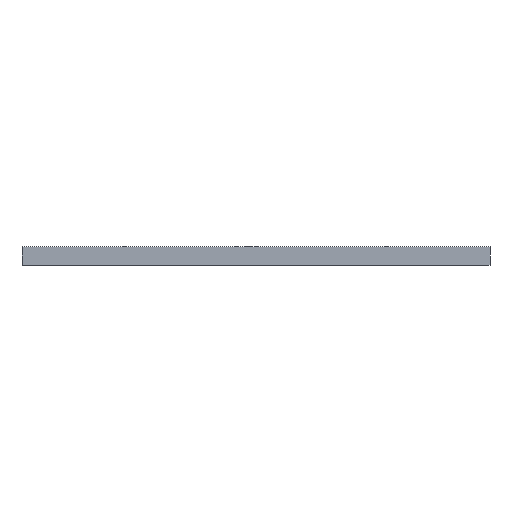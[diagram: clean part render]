
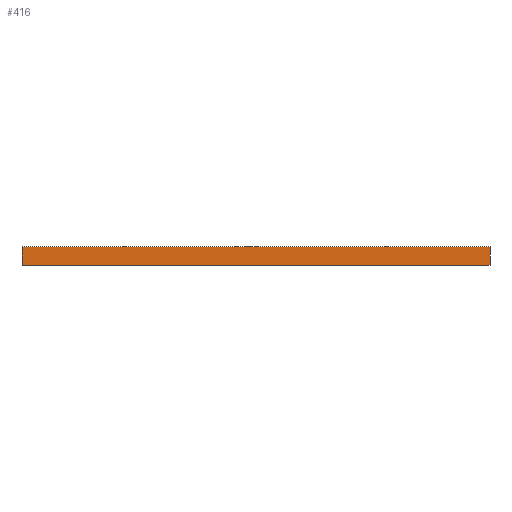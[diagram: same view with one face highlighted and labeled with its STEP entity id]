
A CAD part, front view. The second image highlights one B-rep face of the part: STEP entity #416.
In plain terms, the highlighted planar face has unit normal (0, -1, 0).
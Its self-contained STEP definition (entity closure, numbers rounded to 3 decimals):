
#21 = EDGE_CURVE('',#22,#24,#26,.T.);
#22 = VERTEX_POINT('',#23);
#23 = CARTESIAN_POINT('',(0.,0.,18.));
#24 = VERTEX_POINT('',#25);
#25 = CARTESIAN_POINT('',(464.,0.,18.));
#26 = SURFACE_CURVE('',#27,(#31,#43),.PCURVE_S1.);
#27 = LINE('',#28,#29);
#28 = CARTESIAN_POINT('',(0.,0.,18.));
#29 = VECTOR('',#30,1.);
#30 = DIRECTION('',(1.,0.,0.));
#31 = PCURVE('',#32,#37);
#32 = PLANE('',#33);
#33 = AXIS2_PLACEMENT_3D('',#34,#35,#36);
#34 = CARTESIAN_POINT('',(0.,0.,18.));
#35 = DIRECTION('',(0.,0.,-1.));
#36 = DIRECTION('',(1.,0.,0.));
#37 = DEFINITIONAL_REPRESENTATION('',(#38),#42);
#38 = LINE('',#39,#40);
#39 = CARTESIAN_POINT('',(0.,0.));
#40 = VECTOR('',#41,1.);
#41 = DIRECTION('',(1.,0.));
#42 = ( GEOMETRIC_REPRESENTATION_CONTEXT(2) 
PARAMETRIC_REPRESENTATION_CONTEXT() REPRESENTATION_CONTEXT('2D SPACE',''
  ) );
#43 = PCURVE('',#44,#49);
#44 = PLANE('',#45);
#45 = AXIS2_PLACEMENT_3D('',#46,#47,#48);
#46 = CARTESIAN_POINT('',(0.,0.,18.));
#47 = DIRECTION('',(0.,1.,0.));
#48 = DIRECTION('',(1.,0.,0.));
#49 = DEFINITIONAL_REPRESENTATION('',(#50),#54);
#50 = LINE('',#51,#52);
#51 = CARTESIAN_POINT('',(0.,0.));
#52 = VECTOR('',#53,1.);
#53 = DIRECTION('',(1.,0.));
#54 = ( GEOMETRIC_REPRESENTATION_CONTEXT(2) 
PARAMETRIC_REPRESENTATION_CONTEXT() REPRESENTATION_CONTEXT('2D SPACE',''
  ) );
#72 = PLANE('',#73);
#73 = AXIS2_PLACEMENT_3D('',#74,#75,#76);
#74 = CARTESIAN_POINT('',(0.,0.,18.));
#75 = DIRECTION('',(1.,0.,0.));
#76 = DIRECTION('',(0.,0.,-1.));
#126 = PLANE('',#127);
#127 = AXIS2_PLACEMENT_3D('',#128,#129,#130);
#128 = CARTESIAN_POINT('',(464.,0.,18.));
#129 = DIRECTION('',(1.,0.,0.));
#130 = DIRECTION('',(0.,0.,-1.));
#416 = ADVANCED_FACE('',(#417),#44,.F.);
#417 = FACE_BOUND('',#418,.F.);
#418 = EDGE_LOOP('',(#419,#442,#443,#466));
#419 = ORIENTED_EDGE('',*,*,#420,.F.);
#420 = EDGE_CURVE('',#22,#421,#423,.T.);
#421 = VERTEX_POINT('',#422);
#422 = CARTESIAN_POINT('',(0.,0.,0.));
#423 = SURFACE_CURVE('',#424,(#428,#435),.PCURVE_S1.);
#424 = LINE('',#425,#426);
#425 = CARTESIAN_POINT('',(0.,0.,18.));
#426 = VECTOR('',#427,1.);
#427 = DIRECTION('',(0.,0.,-1.));
#428 = PCURVE('',#44,#429);
#429 = DEFINITIONAL_REPRESENTATION('',(#430),#434);
#430 = LINE('',#431,#432);
#431 = CARTESIAN_POINT('',(0.,0.));
#432 = VECTOR('',#433,1.);
#433 = DIRECTION('',(0.,1.));
#434 = ( GEOMETRIC_REPRESENTATION_CONTEXT(2) 
PARAMETRIC_REPRESENTATION_CONTEXT() REPRESENTATION_CONTEXT('2D SPACE',''
  ) );
#435 = PCURVE('',#72,#436);
#436 = DEFINITIONAL_REPRESENTATION('',(#437),#441);
#437 = LINE('',#438,#439);
#438 = CARTESIAN_POINT('',(0.,0.));
#439 = VECTOR('',#440,1.);
#440 = DIRECTION('',(1.,0.));
#441 = ( GEOMETRIC_REPRESENTATION_CONTEXT(2) 
PARAMETRIC_REPRESENTATION_CONTEXT() REPRESENTATION_CONTEXT('2D SPACE',''
  ) );
#442 = ORIENTED_EDGE('',*,*,#21,.T.);
#443 = ORIENTED_EDGE('',*,*,#444,.T.);
#444 = EDGE_CURVE('',#24,#445,#447,.T.);
#445 = VERTEX_POINT('',#446);
#446 = CARTESIAN_POINT('',(464.,0.,0.));
#447 = SURFACE_CURVE('',#448,(#452,#459),.PCURVE_S1.);
#448 = LINE('',#449,#450);
#449 = CARTESIAN_POINT('',(464.,0.,18.));
#450 = VECTOR('',#451,1.);
#451 = DIRECTION('',(0.,0.,-1.));
#452 = PCURVE('',#44,#453);
#453 = DEFINITIONAL_REPRESENTATION('',(#454),#458);
#454 = LINE('',#455,#456);
#455 = CARTESIAN_POINT('',(464.,0.));
#456 = VECTOR('',#457,1.);
#457 = DIRECTION('',(0.,1.));
#458 = ( GEOMETRIC_REPRESENTATION_CONTEXT(2) 
PARAMETRIC_REPRESENTATION_CONTEXT() REPRESENTATION_CONTEXT('2D SPACE',''
  ) );
#459 = PCURVE('',#126,#460);
#460 = DEFINITIONAL_REPRESENTATION('',(#461),#465);
#461 = LINE('',#462,#463);
#462 = CARTESIAN_POINT('',(0.,0.));
#463 = VECTOR('',#464,1.);
#464 = DIRECTION('',(1.,0.));
#465 = ( GEOMETRIC_REPRESENTATION_CONTEXT(2) 
PARAMETRIC_REPRESENTATION_CONTEXT() REPRESENTATION_CONTEXT('2D SPACE',''
  ) );
#466 = ORIENTED_EDGE('',*,*,#467,.F.);
#467 = EDGE_CURVE('',#421,#445,#468,.T.);
#468 = SURFACE_CURVE('',#469,(#473,#480),.PCURVE_S1.);
#469 = LINE('',#470,#471);
#470 = CARTESIAN_POINT('',(0.,0.,0.));
#471 = VECTOR('',#472,1.);
#472 = DIRECTION('',(1.,0.,0.));
#473 = PCURVE('',#44,#474);
#474 = DEFINITIONAL_REPRESENTATION('',(#475),#479);
#475 = LINE('',#476,#477);
#476 = CARTESIAN_POINT('',(0.,18.));
#477 = VECTOR('',#478,1.);
#478 = DIRECTION('',(1.,0.));
#479 = ( GEOMETRIC_REPRESENTATION_CONTEXT(2) 
PARAMETRIC_REPRESENTATION_CONTEXT() REPRESENTATION_CONTEXT('2D SPACE',''
  ) );
#480 = PCURVE('',#481,#486);
#481 = PLANE('',#482);
#482 = AXIS2_PLACEMENT_3D('',#483,#484,#485);
#483 = CARTESIAN_POINT('',(0.,0.,0.));
#484 = DIRECTION('',(0.,0.,-1.));
#485 = DIRECTION('',(1.,0.,0.));
#486 = DEFINITIONAL_REPRESENTATION('',(#487),#491);
#487 = LINE('',#488,#489);
#488 = CARTESIAN_POINT('',(0.,0.));
#489 = VECTOR('',#490,1.);
#490 = DIRECTION('',(1.,0.));
#491 = ( GEOMETRIC_REPRESENTATION_CONTEXT(2) 
PARAMETRIC_REPRESENTATION_CONTEXT() REPRESENTATION_CONTEXT('2D SPACE',''
  ) );
